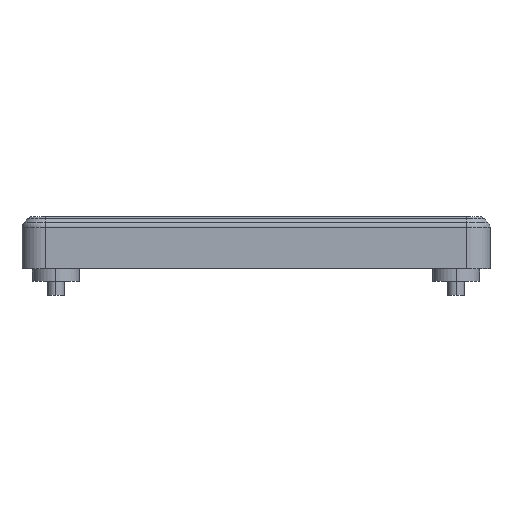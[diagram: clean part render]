
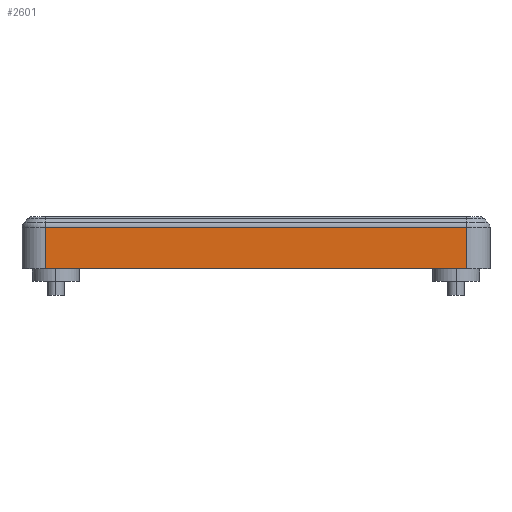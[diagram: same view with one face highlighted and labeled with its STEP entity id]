
A CAD part, left-side view. The second image highlights one B-rep face of the part: STEP entity #2601.
In plain terms, the highlighted planar face has unit normal (-1, 0, 0).
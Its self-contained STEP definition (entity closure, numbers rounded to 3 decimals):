
#30 = LINE ( 'NONE', #3828, #4923 ) ;
#34 = EDGE_CURVE ( 'NONE', #937, #4609, #640, .T. ) ;
#52 = EDGE_CURVE ( 'NONE', #4609, #51, #2557, .T. ) ;
#51 = VERTEX_POINT ( 'NONE', #4009 ) ;
#204 = DIRECTION ( 'NONE',  ( 0., 1., 0. ) ) ;
#370 = PLANE ( 'NONE',  #2210 ) ;
#481 = ORIENTED_EDGE ( 'NONE', *, *, #1220, .T. ) ;
#640 = LINE ( 'NONE', #3638, #1680 ) ;
#850 = DIRECTION ( 'NONE',  ( 0., -1., 0. ) ) ;
#905 = VECTOR ( 'NONE', #204, 1000. ) ;
#937 = VERTEX_POINT ( 'NONE', #1873 ) ;
#943 = DIRECTION ( 'NONE',  ( 0., 0., 1. ) ) ;
#1220 = EDGE_CURVE ( 'NONE', #51, #3450, #2900, .T. ) ;
#1680 = VECTOR ( 'NONE', #943, 1000. ) ;
#1873 = CARTESIAN_POINT ( 'NONE',  ( -19.465, -26.971, 3.292 ) ) ;
#1977 = CARTESIAN_POINT ( 'NONE',  ( -19.465, -26.971, 8.586 ) ) ;
#2117 = EDGE_LOOP ( 'NONE', ( #4326, #4335, #2911, #481 ) ) ;
#2210 = AXIS2_PLACEMENT_3D ( 'NONE', #4594, #4267, #850 ) ;
#2557 = LINE ( 'NONE', #4453, #905 ) ;
#2601 = ADVANCED_FACE ( 'NONE', ( #4918 ), #370, .T. ) ;
#2834 = CARTESIAN_POINT ( 'NONE',  ( -19.465, 27.029, 3.292 ) ) ;
#2900 = LINE ( 'NONE', #4474, #3264 ) ;
#2911 = ORIENTED_EDGE ( 'NONE', *, *, #52, .T. ) ;
#3264 = VECTOR ( 'NONE', #3654, 1000. ) ;
#3390 = EDGE_CURVE ( 'NONE', #937, #3450, #30, .T. ) ;
#3450 = VERTEX_POINT ( 'NONE', #2834 ) ;
#3638 = CARTESIAN_POINT ( 'NONE',  ( -19.465, -26.971, -4. ) ) ;
#3654 = DIRECTION ( 'NONE',  ( 0., 0., -1. ) ) ;
#3803 = DIRECTION ( 'NONE',  ( 0., 1., 0. ) ) ;
#3828 = CARTESIAN_POINT ( 'NONE',  ( -19.465, 30.029, 3.292 ) ) ;
#4009 = CARTESIAN_POINT ( 'NONE',  ( -19.465, 27.029, 8.586 ) ) ;
#4267 = DIRECTION ( 'NONE',  ( -1., 0., 0. ) ) ;
#4326 = ORIENTED_EDGE ( 'NONE', *, *, #3390, .F. ) ;
#4335 = ORIENTED_EDGE ( 'NONE', *, *, #34, .T. ) ;
#4453 = CARTESIAN_POINT ( 'NONE',  ( -19.465, 30.029, 8.586 ) ) ;
#4474 = CARTESIAN_POINT ( 'NONE',  ( -19.465, 27.029, -4. ) ) ;
#4594 = CARTESIAN_POINT ( 'NONE',  ( -19.465, 30.029, -4. ) ) ;
#4609 = VERTEX_POINT ( 'NONE', #1977 ) ;
#4918 = FACE_OUTER_BOUND ( 'NONE', #2117, .T. ) ;
#4923 = VECTOR ( 'NONE', #3803, 1000. ) ;
